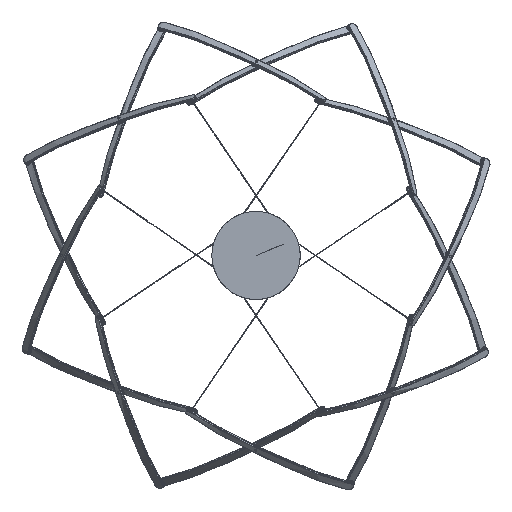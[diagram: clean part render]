
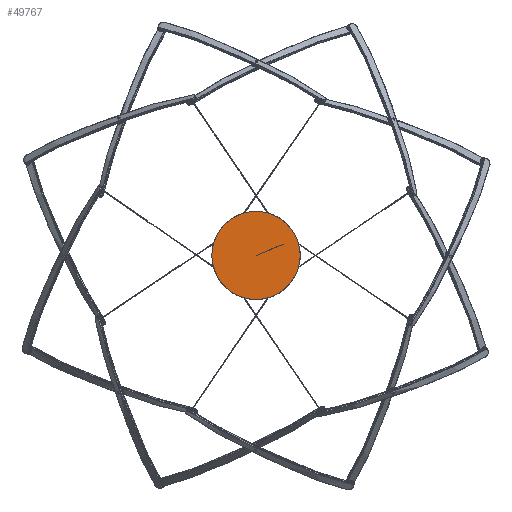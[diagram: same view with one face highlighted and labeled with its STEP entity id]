
A CAD part, top view. The second image highlights one B-rep face of the part: STEP entity #49767.
In plain terms, the highlighted free-form (B-spline) face has degree [3, 3] with [4, 11] control points.
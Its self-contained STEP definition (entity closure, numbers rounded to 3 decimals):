
#11340=FACE_OUTER_BOUND('',#13515,.T.);
#13515=EDGE_LOOP('',(#46924,#46925,#46926));
#18105=B_SPLINE_CURVE_WITH_KNOTS('',3,(#161409,#161410,#161411,#161412),
 .UNSPECIFIED.,.F.,.F.,(4,4),(0.,1.),.UNSPECIFIED.);
#18106=B_SPLINE_CURVE_WITH_KNOTS('',3,(#161413,#161414,#161415,#161416,
#161417,#161418,#161419,#161420,#161421,#161422,#161423),.UNSPECIFIED.,
 .T.,.F.,(4,1,1,1,1,1,1,1,4),(2.,3.,4.,5.,6.,7.,8.,9.,10.),
 .UNSPECIFIED.);
#27614=VERTEX_POINT('',#161407);
#27615=VERTEX_POINT('',#161408);
#37219=EDGE_CURVE('',#27614,#27615,#18105,.T.);
#37220=EDGE_CURVE('',#27615,#27615,#18106,.T.);
#46924=ORIENTED_EDGE('',*,*,#37219,.T.);
#46925=ORIENTED_EDGE('',*,*,#37220,.T.);
#46926=ORIENTED_EDGE('',*,*,#37219,.F.);
#47760=B_SPLINE_SURFACE_WITH_KNOTS('',3,3,((#161363,#161364,#161365,#161366,
#161367,#161368,#161369,#161370,#161371,#161372,#161373),(#161374,#161375,
#161376,#161377,#161378,#161379,#161380,#161381,#161382,#161383,#161384),
(#161385,#161386,#161387,#161388,#161389,#161390,#161391,#161392,#161393,
#161394,#161395),(#161396,#161397,#161398,#161399,#161400,#161401,#161402,
#161403,#161404,#161405,#161406)),.UNSPECIFIED.,.F.,.T.,.F.,(4,4),(4,1,
1,1,1,1,1,1,4),(0.,1.),(2.,3.,4.,5.,6.,7.,8.,9.,10.),.UNSPECIFIED.);
#49767=ADVANCED_FACE('',(#11340),#47760,.T.);
#161363=CARTESIAN_POINT('Ctrl Pts',(0.,0.,
42.343));
#161364=CARTESIAN_POINT('Ctrl Pts',(0.,0.,
42.343));
#161365=CARTESIAN_POINT('Ctrl Pts',(0.,0.,
42.343));
#161366=CARTESIAN_POINT('Ctrl Pts',(0.,0.,
42.343));
#161367=CARTESIAN_POINT('Ctrl Pts',(0.,0.,
42.343));
#161368=CARTESIAN_POINT('Ctrl Pts',(0.,0.,
42.343));
#161369=CARTESIAN_POINT('Ctrl Pts',(0.,0.,
42.343));
#161370=CARTESIAN_POINT('Ctrl Pts',(0.,0.,
42.343));
#161371=CARTESIAN_POINT('Ctrl Pts',(0.,0.,
42.343));
#161372=CARTESIAN_POINT('Ctrl Pts',(0.,0.,
42.343));
#161373=CARTESIAN_POINT('Ctrl Pts',(0.,0.,
42.343));
#161374=CARTESIAN_POINT('Ctrl Pts',(1.5,-0.003,
42.343));
#161375=CARTESIAN_POINT('Ctrl Pts',(1.501,0.389,
42.343));
#161376=CARTESIAN_POINT('Ctrl Pts',(1.177,1.173,42.343));
#161377=CARTESIAN_POINT('Ctrl Pts',(0.003,1.662,
42.343));
#161378=CARTESIAN_POINT('Ctrl Pts',(-1.173,1.177,42.343));
#161379=CARTESIAN_POINT('Ctrl Pts',(-1.662,0.003,
42.343));
#161380=CARTESIAN_POINT('Ctrl Pts',(-1.177,-1.173,42.343));
#161381=CARTESIAN_POINT('Ctrl Pts',(-0.003,-1.662,
42.343));
#161382=CARTESIAN_POINT('Ctrl Pts',(1.173,-1.177,42.343));
#161383=CARTESIAN_POINT('Ctrl Pts',(1.499,-0.394,
42.343));
#161384=CARTESIAN_POINT('Ctrl Pts',(1.5,-0.003,
42.343));
#161385=CARTESIAN_POINT('Ctrl Pts',(3.,-0.005,
42.343));
#161386=CARTESIAN_POINT('Ctrl Pts',(3.001,0.778,
42.343));
#161387=CARTESIAN_POINT('Ctrl Pts',(2.355,2.347,42.343));
#161388=CARTESIAN_POINT('Ctrl Pts',(0.006,3.325,
42.343));
#161389=CARTESIAN_POINT('Ctrl Pts',(-2.347,2.355,42.343));
#161390=CARTESIAN_POINT('Ctrl Pts',(-3.325,0.006,
42.343));
#161391=CARTESIAN_POINT('Ctrl Pts',(-2.355,-2.347,
42.343));
#161392=CARTESIAN_POINT('Ctrl Pts',(-0.006,-3.325,
42.343));
#161393=CARTESIAN_POINT('Ctrl Pts',(2.347,-2.355,42.343));
#161394=CARTESIAN_POINT('Ctrl Pts',(2.999,-0.789,
42.343));
#161395=CARTESIAN_POINT('Ctrl Pts',(3.,-0.005,
42.343));
#161396=CARTESIAN_POINT('Ctrl Pts',(4.5,-0.008,
42.343));
#161397=CARTESIAN_POINT('Ctrl Pts',(4.502,1.168,42.343));
#161398=CARTESIAN_POINT('Ctrl Pts',(3.532,3.52,42.343));
#161399=CARTESIAN_POINT('Ctrl Pts',(0.009,4.987,
42.343));
#161400=CARTESIAN_POINT('Ctrl Pts',(-3.52,3.532,42.343));
#161401=CARTESIAN_POINT('Ctrl Pts',(-4.987,0.009,
42.343));
#161402=CARTESIAN_POINT('Ctrl Pts',(-3.532,-3.52,42.343));
#161403=CARTESIAN_POINT('Ctrl Pts',(-0.009,-4.987,
42.343));
#161404=CARTESIAN_POINT('Ctrl Pts',(3.52,-3.532,42.343));
#161405=CARTESIAN_POINT('Ctrl Pts',(4.498,-1.183,42.343));
#161406=CARTESIAN_POINT('Ctrl Pts',(4.5,-0.008,
42.343));
#161407=CARTESIAN_POINT('',(0.,0.,
42.343));
#161408=CARTESIAN_POINT('',(4.5,-0.008,42.343));
#161409=CARTESIAN_POINT('Ctrl Pts',(0.,0.,
42.343));
#161410=CARTESIAN_POINT('Ctrl Pts',(1.5,-0.003,
42.343));
#161411=CARTESIAN_POINT('Ctrl Pts',(3.,-0.005,
42.343));
#161412=CARTESIAN_POINT('Ctrl Pts',(4.5,-0.008,
42.343));
#161413=CARTESIAN_POINT('Ctrl Pts',(4.5,-0.008,
42.343));
#161414=CARTESIAN_POINT('Ctrl Pts',(4.502,1.168,42.343));
#161415=CARTESIAN_POINT('Ctrl Pts',(3.532,3.52,42.343));
#161416=CARTESIAN_POINT('Ctrl Pts',(0.009,4.987,
42.343));
#161417=CARTESIAN_POINT('Ctrl Pts',(-3.52,3.532,42.343));
#161418=CARTESIAN_POINT('Ctrl Pts',(-4.987,0.009,
42.343));
#161419=CARTESIAN_POINT('Ctrl Pts',(-3.532,-3.52,42.343));
#161420=CARTESIAN_POINT('Ctrl Pts',(-0.009,-4.987,
42.343));
#161421=CARTESIAN_POINT('Ctrl Pts',(3.52,-3.532,42.343));
#161422=CARTESIAN_POINT('Ctrl Pts',(4.498,-1.183,42.343));
#161423=CARTESIAN_POINT('Ctrl Pts',(4.5,-0.008,
42.343));
